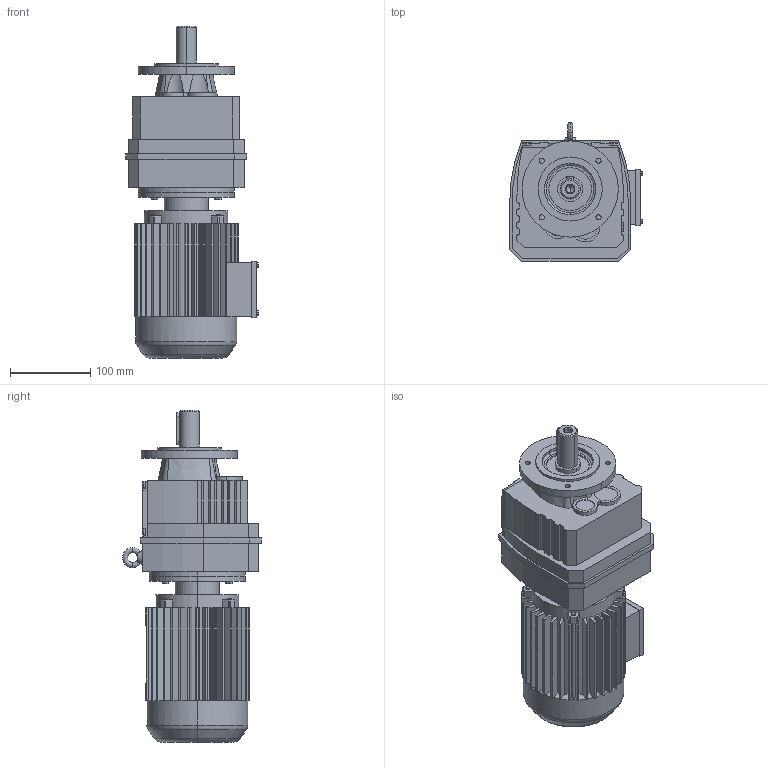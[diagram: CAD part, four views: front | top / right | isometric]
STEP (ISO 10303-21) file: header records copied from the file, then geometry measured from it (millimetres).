
FILE_DESCRIPTION(('Open CASCADE Model'),'2;1');
FILE_NAME('Open CASCADE Shape Model','2021-07-13T14:34:57',('Author'),( 'Open CASCADE'),'Open CASCADE STEP processor 6.3','Open CASCADE 6.3' ,'Unknown');
FILE_SCHEMA(('AUTOMOTIVE_DESIGN_CC2 { 1 2 10303 214 -1 1 5 4 }'));
Length unit declared in the file: millimetre
Products named in the file (3): 1_RF37-Y63S-120; RF37‵167_37_120.step; 萇儂_120_Y63S.step
Assembly tree (2 placements, depth 2):
  1_RF37-Y63S-120
    RF37‵167_37_120.step
    萇儂_120_Y63S.step
Bounding box: 165.5 x 173 x 414 mm (x, y, z)
Volume: 4648270.6 mm3; surface area: 361854.6 mm2
Topology: 2 solids, 2 shells, 736 faces, 1947 edges, 1258 vertices
Faces by surface type: plane 513, cylinder 191, cone 20, torus 12
Entity records: 50717 total; most frequent: CARTESIAN_POINT 13533, DIRECTION 6484, ORIENTED_EDGE 3890, PCURVE 3890, DEFINITIONAL_REPRESENTATION 3890, LINE 3552, VECTOR 3552, EDGE_CURVE 1945
